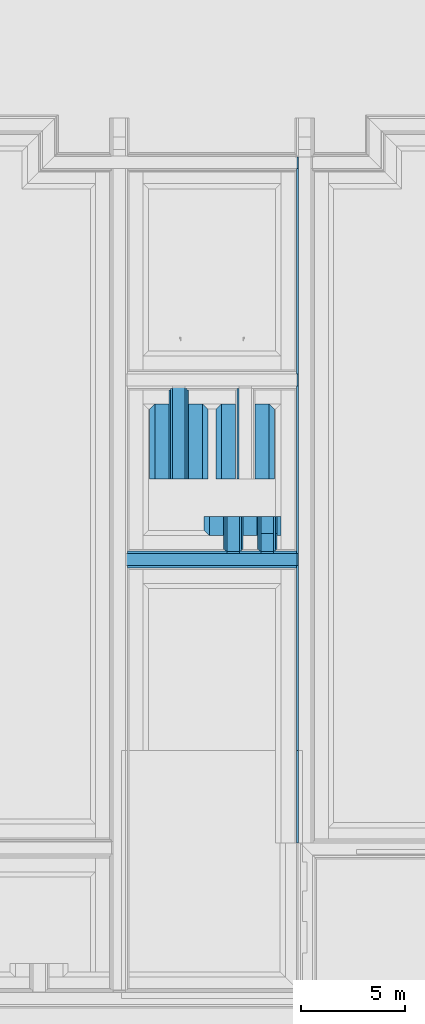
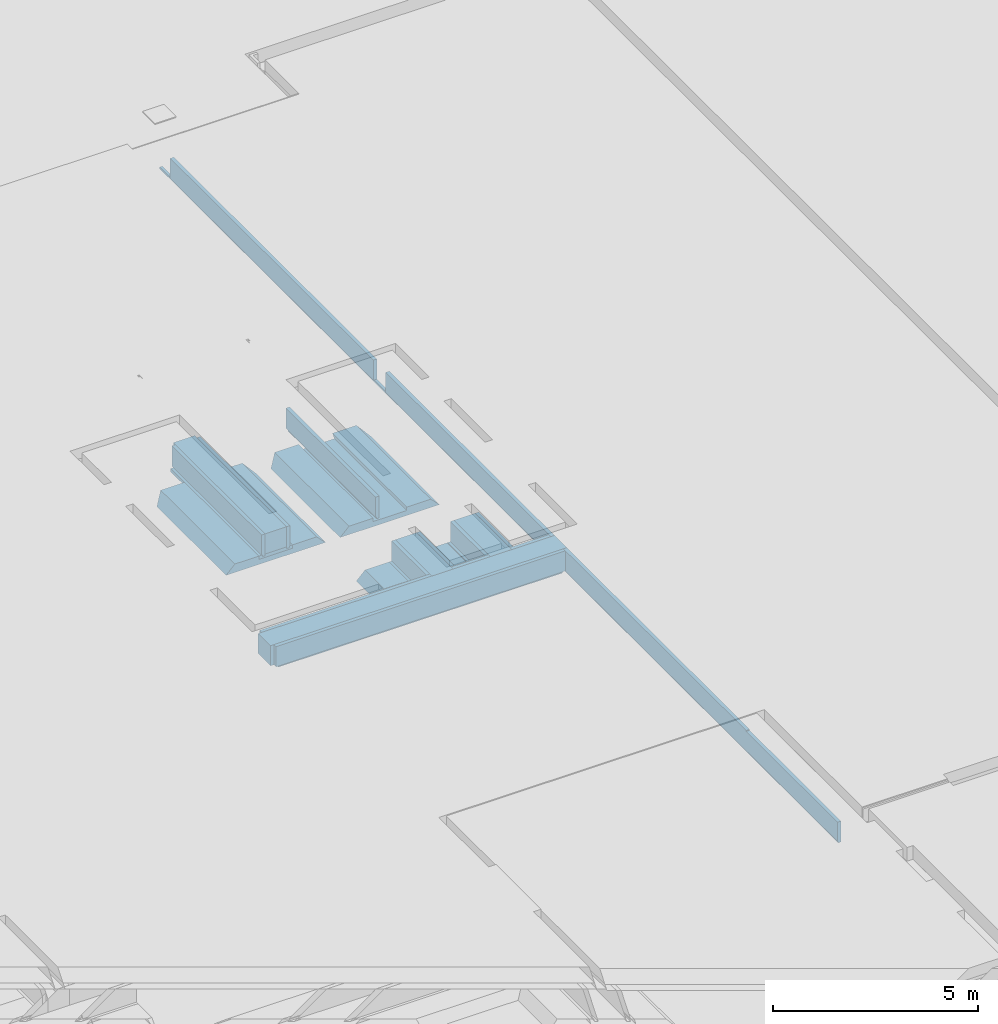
# One storey, part 10 of 15: 21 building element parts, 6 elements without a shape of their own.
"""IFC2X3 building model written with IfcOpenShell, lengths in millimetres."""

from ifc_helpers import new_model, entity, si_unit, converted_unit, derived_unit, money_unit, direction, frame, origin_with_axes, place, context, subcontext, project, spatial, faceted_brep, material, type_object, element, aggregate, save


model = new_model("IFC2X3")

# Units and contexts
model_context = context("Model", 3, precision=0.01, world=origin_with_axes(), true_north=direction((0.0, 1.0)))
plan_context = context("Plan", 3, precision=0.01, world=origin_with_axes(), true_north=direction((0.0, 1.0)))
body_context = subcontext(model_context, "Body", "Model", "MODEL_VIEW")
ifc_project = project(units=[si_unit("LENGTHUNIT", "METRE", prefix="MILLI"), si_unit("AREAUNIT", "SQUARE_METRE"), si_unit("VOLUMEUNIT", "CUBIC_METRE"), converted_unit("PLANEANGLEUNIT", "DEGREE", entity("IfcPlaneAngleMeasure", 0.0174532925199), si_unit("PLANEANGLEUNIT", "RADIAN"), dimensions=[0, 0, 0, 0, 0, 0, 0]), money_unit("EUR"), converted_unit("TIMEUNIT", "Year", entity("IfcTimeMeasure", 31556926.0), si_unit("TIMEUNIT", "SECOND"), dimensions=[0, 0, 1, 0, 0, 0, 0]), si_unit("MASSUNIT", "GRAM", prefix="KILO"), si_unit("THERMODYNAMICTEMPERATUREUNIT", "DEGREE_CELSIUS"), si_unit("LUMINOUSINTENSITYUNIT", "LUMEN"), si_unit("ENERGYUNIT", "JOULE", prefix="MEGA"), derived_unit("THERMALCONDUCTANCEUNIT", [(si_unit("POWERUNIT", "WATT"), 1), (si_unit("LENGTHUNIT", "METRE"), -1), (si_unit("THERMODYNAMICTEMPERATUREUNIT", "KELVIN"), -1)]), derived_unit("SPECIFICHEATCAPACITYUNIT", [(si_unit("ENERGYUNIT", "JOULE"), 1), (si_unit("MASSUNIT", "GRAM", prefix="KILO"), -1), (si_unit("THERMODYNAMICTEMPERATUREUNIT", "KELVIN"), -1)]), derived_unit("MASSDENSITYUNIT", [(si_unit("MASSUNIT", "GRAM", prefix="KILO"), 1), (si_unit("VOLUMEUNIT", "CUBIC_METRE"), -1)])], contexts=[model_context, plan_context])

# Site, building, storey
site_placement = place(None, origin_with_axes())
site = spatial("IfcSite", under=ifc_project, at=site_placement, Name="Site", CompositionType="ELEMENT")
building_placement = place(site_placement, origin_with_axes())
building = spatial("IfcBuilding", under=site, at=building_placement, Name="Naam gebouw", CompositionType="ELEMENT")
storey_placement = place(building_placement, frame((0.0, 0.0, -1050.0), z_axis=(0.0, 0.0, 1.0), x_axis=(1.0, 0.0, 0.0)))
storey = spatial("IfcBuildingStorey", under=building, at=storey_placement, Name="fundering", CompositionType="ELEMENT", Elevation=-1050.0)

# Beam, building element parts
beam_type = type_object("IfcBeamType", Name="Fundering balk IsoBouw Powerkist 2800 x 850", PredefinedType="BEAM")
beam_1_placement = place(storey_placement, frame((41680.0, 34700.0000358, -60.0000017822), z_axis=(0.0, 0.0, 1.0), x_axis=(-1.0, 0.0, 0.0)))
beam_1 = element("IfcBeam", 1, at=beam_1_placement, inside=storey, type_object=beam_type, Name="28_Balk-x", ObjectType="BEAM")
ifc_material_1 = material(Name="ALG - TERREIN")
building_element_part_1_placement = place(beam_1_placement, origin_with_axes())
building_element_part_1 = element("IfcBuildingElementPart", 2, at=building_element_part_1_placement, material=ifc_material_1, Name="ALG - TERREIN", context=body_context, shape_type="Brep", body=[
    faceted_brep([(1400.00037562, 1400.00037562, -249.999996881), (-1400.00037562, 1400.00037562, -249.999996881), (-1400.00037562, 4775.00010807, -249.999996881), (1400.00037562, 4775.00010807, -249.999996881), (-1150.00039795, 1150.00039795, -1.49733616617e-05), (1150.00039795, 1150.00039795, 2.28408447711e-06), (475.000395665, 1150.00039795, -2.78059908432e-06), (475.000395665, 1250.00038902, -100.00001028), (-475.000395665, 1250.00038902, -100.00001028), (-475.000395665, 1150.00039795, -9.90867810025e-06), (-1150.00039795, 4775.00010807, -1.92126834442e-05), (-475.000395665, 4775.00010807, -100.00001028), (475.000395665, 4775.00010807, -100.00001028), (475.000395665, 4775.00010807, 2.25106189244e-05), (1150.00039795, 4775.00010807, -1.92126834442e-05), (-475.000395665, 4775.00010807, 2.25106189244e-05)], [[[0, 1, 2, 3]], [[4, 1, 0, 5, 6, 7, 8, 9]], [[1, 4, 10, 2]], [[11, 12, 13, 14, 3, 2, 10, 15]], [[5, 0, 3, 14]], [[6, 5, 14, 13]], [[7, 6, 13, 12]], [[8, 7, 12, 11]], [[9, 8, 11, 15]], [[4, 9, 15, 10]]]),
])
ifc_material_2 = material(Name="Isolatie - EPS")
building_element_part_2_placement = place(beam_1_placement, origin_with_axes())
building_element_part_2 = element("IfcBuildingElementPart", 3, at=building_element_part_2_placement, material=ifc_material_2, Name="Isolatie - EPS", context=body_context, shape_type="Brep", body=[
    faceted_brep([(300.00036966, 475.000375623, -49.0824424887), (300.00036966, 475.000375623, 1.52455683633e-05), (300.00036966, 400.000373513, 1.52455683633e-05), (300.00036966, 400.000373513, 600.000004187), (300.00036966, 4775.00010807, 600.000004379), (300.00036966, 4775.00010807, -49.0824424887), (380.000369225, 475.000375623, 1.52455683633e-05), (380.000369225, 475.000375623, -49.0824424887), (400.000366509, 4775.00010807, 2.4249691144e-06), (400.000366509, 400.000373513, 1.52455683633e-05), (380.000369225, 4775.00010807, 2.4249691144e-06), (400.000366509, 400.000373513, 600.000004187), (400.000366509, 4775.00010807, 600.000004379), (380.000369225, 4775.00010807, -49.0824424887)], [[[0, 1, 2, 3, 4, 5]], [[6, 1, 0, 7]], [[8, 9, 2, 1, 6, 10]], [[9, 11, 3, 2]], [[4, 3, 11, 12]], [[13, 5, 4, 12, 8, 10]], [[13, 7, 0, 5]], [[10, 6, 7, 13]], [[12, 11, 9, 8]]]),
])
aggregate(beam_1, [building_element_part_1, building_element_part_2])

beam_2_placement = place(storey_placement, frame((38470.0, 34700.0000358, -60.0000017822), z_axis=(0.0, 0.0, 1.0), x_axis=(-1.0, 0.0, 0.0)))
beam_2 = element("IfcBeam", 4, at=beam_2_placement, inside=storey, type_object=beam_type, Name="28_Balk-x", ObjectType="BEAM")
building_element_part_3_placement = place(beam_2_placement, origin_with_axes())
building_element_part_3 = element("IfcBuildingElementPart", 5, at=building_element_part_3_placement, material=ifc_material_1, Name="ALG - TERREIN", context=body_context, shape_type="Brep", body=[
    faceted_brep([(1400.00037562, 1400.00037562, -249.999996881), (-1400.00037562, 1400.00037562, -249.999996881), (-1400.00037562, 4775.00010807, -249.999996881), (1400.00037562, 4775.00010807, -249.999996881), (-1150.00039795, 1150.00039795, -1.92126834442e-05), (1150.00039795, 1150.00039795, -1.92126834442e-05), (475.000395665, 1150.00039795, -1.92126834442e-05), (475.000395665, 1250.00038902, -100.00001028), (-475.000395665, 1250.00038902, -100.00001028), (-475.000395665, 1150.00039795, -1.92126834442e-05), (-1150.00039795, 4775.00010807, -1.92126832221e-05), (-475.000395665, 4775.00010807, 2.25106189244e-05), (-475.000395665, 4775.00010807, -100.00001028), (475.000395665, 4775.00010807, -100.00001028), (475.000395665, 4775.00010807, 2.25106187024e-05), (1150.00039795, 4775.00010807, -1.92126836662e-05)], [[[0, 1, 2, 3]], [[4, 1, 0, 5, 6, 7, 8, 9]], [[1, 4, 10, 2]], [[3, 2, 10, 11, 12, 13, 14, 15]], [[5, 0, 3, 15]], [[6, 5, 15, 14]], [[7, 6, 14, 13]], [[8, 7, 13, 12]], [[9, 8, 12, 11]], [[4, 9, 11, 10]]]),
])
building_element_part_4_placement = place(beam_2_placement, origin_with_axes())
building_element_part_4 = element("IfcBuildingElementPart", 6, at=building_element_part_4_placement, material=ifc_material_2, Name="Isolatie - EPS", context=body_context, shape_type="Brep", body=[
    faceted_brep([(-475.000375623, 475.000375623, -99.9999968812), (-475.000375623, 475.000375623, 1.52455683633e-05), (-475.000375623, 4775.00010807, 8.43651926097e-06), (-475.000375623, 4775.00010807, -99.9999968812), (-400.000361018, 475.000375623, 1.52455683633e-05), (475.000375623, 475.000375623, -99.9999968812), (475.000375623, 475.000375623, 1.52455683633e-05), (400.000361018, 475.000375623, 1.52455683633e-05), (380.000371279, 475.000375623, 1.52455683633e-05), (380.000371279, 475.000375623, -49.0824435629), (300.000369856, 475.000375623, -49.0824435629), (300.000369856, 475.000375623, 1.52455683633e-05), (-300.000369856, 475.000375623, 1.52455683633e-05), (-300.000369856, 475.000375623, -49.0824435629), (-380.000371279, 475.000375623, -49.0824435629), (-380.000371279, 475.000375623, 1.52455683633e-05), (-400.000361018, 4775.00010807, 8.43651926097e-06), (-380.000371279, 4775.00010807, 8.43651926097e-06), (-380.000371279, 4775.00010807, -49.0824435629), (-300.000369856, 4775.00010807, -49.0824435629), (-300.000369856, 4775.00010807, 8.43651926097e-06), (300.000369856, 4775.00010807, 8.43651903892e-06), (300.000369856, 4775.00010807, -49.0824435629), (380.000371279, 4775.00010807, -49.0824435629), (380.000371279, 4775.00010807, 8.43651903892e-06), (400.000361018, 4775.00010807, 8.43651903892e-06), (475.000375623, 4775.00010807, 8.43651903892e-06), (475.000375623, 4775.00010807, -99.9999968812)], [[[0, 1, 2, 3]], [[4, 1, 0, 5, 6, 7, 8, 9, 10, 11, 12, 13, 14, 15]], [[1, 4, 16, 2]], [[3, 2, 16, 17, 18, 19, 20, 21, 22, 23, 24, 25, 26, 27]], [[5, 0, 3, 27]], [[6, 5, 27, 26]], [[7, 6, 26, 25]], [[8, 7, 25, 24]], [[9, 8, 24, 23]], [[10, 9, 23, 22]], [[11, 10, 22, 21]], [[12, 11, 21, 20]], [[13, 12, 20, 19]], [[14, 13, 19, 18]], [[15, 14, 18, 17]], [[4, 15, 17, 16]]]),
])
building_element_part_5_placement = place(beam_2_placement, origin_with_axes())
building_element_part_5 = element("IfcBuildingElementPart", 7, at=building_element_part_5_placement, material=ifc_material_2, Name="Isolatie - EPS", context=body_context, shape_type="Brep", body=[
    faceted_brep([(300.00036966, 475.000375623, -49.0824424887), (300.00036966, 475.000375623, 1.52455683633e-05), (300.00036966, 400.000373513, 1.52455683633e-05), (300.00036966, 400.000373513, 600.000004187), (300.00036966, 4775.00010807, 600.000004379), (300.00036966, 4775.00010807, -49.0824424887), (380.000369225, 475.000375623, 1.52455683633e-05), (380.000369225, 475.000375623, -49.0824424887), (400.000366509, 4775.00010807, 2.4249691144e-06), (400.000366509, 400.000373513, 1.52455683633e-05), (380.000369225, 4775.00010807, 2.4249691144e-06), (400.000366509, 400.000373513, 600.000004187), (400.000366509, 4775.00010807, 600.000004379), (380.000369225, 4775.00010807, -49.0824424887)], [[[0, 1, 2, 3, 4, 5]], [[6, 1, 0, 7]], [[8, 9, 2, 1, 6, 10]], [[9, 11, 3, 2]], [[4, 3, 11, 12]], [[13, 5, 4, 12, 8, 10]], [[13, 7, 0, 5]], [[10, 6, 7, 13]], [[12, 11, 9, 8]]]),
])
building_element_part_6_placement = place(beam_2_placement, origin_with_axes())
building_element_part_6 = element("IfcBuildingElementPart", 8, at=building_element_part_6_placement, material=ifc_material_2, Name="Isolatie - EPS", context=body_context, shape_type="Brep", body=[
    faceted_brep([(-400.000366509, 4775.00010807, 2.42496933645e-06), (-400.000366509, 400.000373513, 1.52455683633e-05), (-400.000366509, 400.000373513, 600.000004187), (-400.000366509, 4775.00010807, 600.000004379), (-300.00036966, 475.000375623, 1.52455683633e-05), (-300.00036966, 400.000373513, 1.52455683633e-05), (-380.000369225, 4775.00010807, 2.42496933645e-06), (-380.000369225, 475.000375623, 1.52455683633e-05), (-300.00036966, 400.000373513, 600.000004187), (-300.00036966, 4775.00010807, 600.000004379), (-300.00036966, 4775.00010807, -49.0824424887), (-380.000369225, 4775.00010807, -49.0824424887), (-300.00036966, 475.000375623, -49.0824424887), (-380.000369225, 475.000375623, -49.0824424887)], [[[0, 1, 2, 3]], [[4, 5, 1, 0, 6, 7]], [[5, 8, 2, 1]], [[3, 2, 8, 9]], [[10, 11, 6, 0, 3, 9]], [[5, 4, 12, 10, 9, 8]], [[11, 13, 7, 6]], [[4, 7, 13, 12]], [[10, 12, 13, 11]]]),
])
ifc_material_3 = material(Name="Beton gewapend C")
building_element_part_7_placement = place(beam_2_placement, origin_with_axes())
building_element_part_7 = element("IfcBuildingElementPart", 9, at=building_element_part_7_placement, material=ifc_material_3, Name="Beton gewapend C", context=body_context, shape_type="Brep", body=[
    faceted_brep([(-300.000372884, 4775.00010807, 0.0), (-300.000372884, 300.000372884, 0.0), (-300.000372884, 300.000372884, 600.0), (-300.000372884, 4775.00010807, 600.0), (300.000372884, 4775.00010807, 0.0), (300.000372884, 300.000372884, 0.0), (300.000372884, 300.000372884, 600.0), (300.000372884, 4775.00010807, 600.0)], [[[0, 1, 2, 3]], [[4, 5, 1, 0]], [[5, 6, 2, 1]], [[3, 2, 6, 7]], [[3, 7, 4, 0]], [[7, 6, 5, 4]]]),
])
aggregate(beam_2, [building_element_part_3, building_element_part_4, building_element_part_5, building_element_part_6, building_element_part_7])

beam_3_placement = place(storey_placement, frame((35604.9999775, 26040.0, -60.0000017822), z_axis=(0.0, 0.0, 1.0), x_axis=(0.0, -1.0, 0.0)))
beam_3 = element("IfcBeam", 10, at=beam_3_placement, inside=storey, type_object=beam_type, Name="28_Balk-x", ObjectType="BEAM")
building_element_part_8_placement = place(beam_3_placement, origin_with_axes())
building_element_part_8 = element("IfcBuildingElementPart", 11, at=building_element_part_8_placement, material=ifc_material_2, Name="Isolatie - EPS", context=body_context, shape_type="Brep", body=[
    faceted_brep([(-400.000366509, 8539.99964899, 1.52455683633e-05), (-400.000366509, 7437.00064398, 0.0), (-400.000366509, 7437.00064398, 600.0), (-400.000366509, 8539.99964899, 600.000004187), (-380.000369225, 8464.99964688, 1.52455683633e-05), (-380.000369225, 7437.00064398, 0.0), (-300.00036966, 8539.99964899, 1.52455683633e-05), (-300.00036966, 8464.99964688, 1.52455683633e-05), (-300.000372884, 7437.00064398, 0.0), (-300.000372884, 7437.00064398, 600.0), (-300.00036966, 8539.99964899, 600.000004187), (-380.000369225, 5788.00064398, 0.0), (-380.000369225, 6836.99940102, 0.0), (-380.000369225, 8464.99964688, -49.0824424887), (-380.000369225, 475.000398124, -49.0824424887), (-380.000369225, 475.000398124, 1.52455683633e-05), (-380.000369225, 5187.99940102, 0.0), (-300.000372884, 6836.99940102, 0.0), (-300.000372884, 6836.99940102, 600.0), (-300.000372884, 5788.00064398, 600.0), (-300.000372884, 5788.00064398, 0.0), (-300.000372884, 5187.99940102, 0.0), (-300.000372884, 5187.99940102, 600.0), (-300.00036966, 400.000396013, 600.000004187), (-300.00036966, 400.000396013, 1.52455683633e-05), (-300.00036966, 475.000398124, 1.52455683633e-05), (-300.00036966, 475.000398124, -49.0824424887), (-300.00036966, 8464.99964688, -49.0824424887), (-400.000366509, 5788.00064398, 0.0), (-400.000366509, 6836.99940102, 0.0), (-400.000366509, 400.000396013, 1.52455683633e-05), (-400.000366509, 5187.99940102, 0.0), (-400.000366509, 6836.99940102, 600.0), (-400.000366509, 5788.00064398, 600.0), (-400.000366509, 5187.99940102, 600.0), (-400.000366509, 400.000396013, 600.000004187)], [[[0, 1, 2, 3]], [[4, 5, 1, 0, 6, 7]], [[8, 9, 2, 1, 5]], [[3, 2, 9, 10]], [[0, 3, 10, 6]], [[11, 12, 5, 4, 13, 14, 15, 16]], [[8, 17, 18, 19, 20, 21, 22, 23, 24, 25, 26, 27, 7, 6, 10, 9]], [[13, 4, 7, 27]], [[8, 5, 12, 17]], [[28, 29, 12, 11]], [[14, 13, 27, 26]], [[14, 26, 25, 15]], [[24, 30, 31, 16, 15, 25]], [[21, 20, 11, 16]], [[12, 29, 32, 18, 17]], [[19, 18, 32, 33]], [[11, 20, 19, 33, 28]], [[21, 16, 31, 34, 22]], [[35, 23, 22, 34]], [[35, 30, 24, 23]], [[33, 32, 29, 28]], [[30, 35, 34, 31]]]),
])
building_element_part_9_placement = place(beam_3_placement, origin_with_axes())
building_element_part_9 = element("IfcBuildingElementPart", 12, at=building_element_part_9_placement, material=ifc_material_2, Name="Isolatie - EPS", context=body_context, shape_type="Brep", body=[
    faceted_brep([(300.00036966, 475.000398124, 1.52455683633e-05), (300.00036966, 400.000396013, 1.52455683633e-05), (300.00036966, 400.000396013, 600.000004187), (300.00036966, 8539.99964899, 600.000004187), (300.00036966, 8539.99964899, 1.52455683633e-05), (300.00036966, 8464.99964688, 1.52455683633e-05), (300.00036966, 8464.99964688, -49.0824424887), (300.00036966, 475.000398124, -49.0824424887), (400.000366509, 8539.99964899, 1.52455683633e-05), (400.000366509, 400.000396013, 1.52455683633e-05), (380.000369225, 475.000398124, 1.52455683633e-05), (380.000369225, 8464.99964688, 1.52455683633e-05), (400.000366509, 400.000396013, 600.000004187), (400.000366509, 8539.99964899, 600.000004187), (380.000369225, 8464.99964688, -49.0824424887), (380.000369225, 475.000398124, -49.0824424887)], [[[0, 1, 2, 3, 4, 5, 6, 7]], [[8, 9, 1, 0, 10, 11, 5, 4]], [[9, 12, 2, 1]], [[3, 2, 12, 13]], [[13, 8, 4, 3]], [[11, 14, 6, 5]], [[14, 15, 7, 6]], [[10, 0, 7, 15]], [[13, 12, 9, 8]], [[11, 10, 15, 14]]]),
])
building_element_part_10_placement = place(beam_3_placement, origin_with_axes())
building_element_part_10 = element("IfcBuildingElementPart", 13, at=building_element_part_10_placement, material=ifc_material_3, Name="Beton gewapend C", context=body_context, shape_type="Brep", body=[
    faceted_brep([(-300.000372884, 8639.99964962, 0.0), (-300.000372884, 300.000395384, 0.0), (-300.000372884, 300.000395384, 600.0), (-300.000372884, 8639.99964962, 600.0), (300.000372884, 8639.99964962, 0.0), (300.000372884, 300.000395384, 0.0), (300.000372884, 300.000395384, 600.0), (300.000372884, 8639.99964962, 600.0)], [[[0, 1, 2, 3]], [[4, 5, 1, 0]], [[5, 6, 2, 1]], [[3, 2, 6, 7]], [[7, 4, 0, 3]], [[7, 6, 5, 4]]]),
])
aggregate(beam_3, [building_element_part_8, building_element_part_9, building_element_part_10])

beam_4_placement = place(storey_placement, frame((42742.0, 28125.0, -60.0000017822), z_axis=(0.0, 0.0, 1.0), x_axis=(-1.0, 0.0, 0.0)))
beam_4 = element("IfcBeam", 14, at=beam_4_placement, inside=storey, type_object=beam_type, Name="28_Balk-x", ObjectType="BEAM")
building_element_part_11_placement = place(beam_4_placement, origin_with_axes())
building_element_part_11 = element("IfcBuildingElementPart", 15, at=building_element_part_11_placement, material=ifc_material_1, Name="ALG - TERREIN", context=body_context, shape_type="Brep", body=[
    faceted_brep([(475.000605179, 934.999602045, 7.42004169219e-06), (475.000605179, 911.000830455, -23.9987692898), (475.000605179, 1.31450406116e-10, -23.9987674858), (475.000605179, 0.0, -1.65443776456e-05), (498.99935612, 934.999602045, 7.52896478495e-06), (498.99935612, 1.38555833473e-10, -1.65443778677e-05)], [[[0, 1, 2, 3]], [[4, 1, 0]], [[1, 4, 5, 2]], [[3, 2, 5]], [[4, 0, 3, 5]]]),
    faceted_brep([(-475.000605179, 934.999602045, 3.10827918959e-06), (-652.999602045, 934.999602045, 2.30039653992e-06), (-652.999602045, 0.0, -1.92126834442e-05), (-475.000605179, 0.0, -1.65443776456e-05), (-402.999624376, 684.999624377, -249.999996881), (-475.000605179, 834.999616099, -99.9999836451), (398.999392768, 834.999618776, -99.999980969), (248.999375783, 684.999624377, -249.999996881), (-402.999624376, 0.0, -249.999996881), (248.999375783, 0.0, -249.999996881), (398.99939259, 1.10134124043e-10, -99.9999800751), (-475.000605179, 0.0, -99.9999836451)], [[[0, 1, 2, 3]], [[4, 1, 0, 5, 6, 7]], [[1, 4, 8, 2]], [[8, 9, 10, 11, 3, 2]], [[5, 0, 3, 11]], [[6, 5, 11, 10]], [[7, 6, 10, 9]], [[4, 7, 9, 8]]]),
])
building_element_part_12_placement = place(beam_4_placement, origin_with_axes())
building_element_part_12 = element("IfcBuildingElementPart", 16, at=building_element_part_12_placement, material=ifc_material_2, Name="Isolatie - EPS", context=body_context, shape_type="Brep", body=[
    faceted_brep([(-400.000612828, 1609.99962438, 1.52455683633e-05), (-475.000624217, 1609.99962438, 1.52455683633e-05), (-475.000624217, 0.0, 4.14733647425e-06), (-400.000612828, 0.0, 4.14733647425e-06), (-475.000624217, 1609.99962438, -99.9999968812), (-380.000626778, 1609.99962438, 1.52455683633e-05), (-380.000626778, 1609.99962438, -49.0824452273), (-300.000625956, 1609.99962438, -49.0824452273), (-300.000625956, 1609.99962438, 1.52455683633e-05), (300.000625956, 1609.99962438, 1.52455683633e-05), (300.000625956, 1609.99962438, -49.0824452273), (380.000626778, 1609.99962438, -49.0824452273), (380.000626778, 1609.99962438, 1.52455683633e-05), (400.000612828, 1609.99962438, 1.52455683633e-05), (475.000624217, 1609.99962438, 1.52455683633e-05), (475.000624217, 1609.99962438, -99.9999968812), (-475.000624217, 0.0, -99.9999968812), (475.000624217, 0.0, 4.14733647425e-06), (400.000612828, 0.0, 4.14733647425e-06), (380.000626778, 0.0, 4.14733647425e-06), (380.000626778, 0.0, -49.0824452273), (300.000625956, 0.0, -49.0824452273), (300.000625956, 0.0, -1.00087986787e-05), (-300.000625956, 0.0, -1.00087986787e-05), (-300.000625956, 0.0, -49.0824452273), (-380.000626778, 0.0, -49.0824452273), (-380.000626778, 0.0, 4.14733647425e-06), (475.000624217, 0.0, -99.9999968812)], [[[0, 1, 2, 3]], [[4, 1, 0, 5, 6, 7, 8, 9, 10, 11, 12, 13, 14, 15]], [[1, 4, 16, 2]], [[17, 18, 19, 20, 21, 22, 23, 24, 25, 26, 3, 2, 16, 27]], [[5, 0, 3, 26]], [[6, 5, 26, 25]], [[7, 6, 25, 24]], [[8, 7, 24, 23]], [[9, 8, 23, 22]], [[10, 9, 22, 21]], [[11, 10, 21, 20]], [[12, 11, 20, 19]], [[13, 12, 19, 18]], [[14, 13, 18, 17]], [[15, 14, 17, 27]], [[4, 15, 27, 16]]]),
])
building_element_part_13_placement = place(beam_4_placement, origin_with_axes())
building_element_part_13 = element("IfcBuildingElementPart", 17, at=building_element_part_13_placement, material=ifc_material_2, Name="Isolatie - EPS", context=body_context, shape_type="Brep", body=[
    faceted_brep([(-300.000620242, 0.0, 599.999996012), (-300.000620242, 1684.99962929, 600.000002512), (-400.000615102, 1684.99962903, 600.000002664), (-400.000615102, 0.0, 599.999996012), (-300.000620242, 1609.99962438, 1.52455683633e-05), (-300.000620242, 1684.99963349, 9.13515663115e-06), (-300.000620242, 0.0, -49.0824424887), (-300.000620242, 1609.99962438, -49.0824424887), (-400.000615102, 1684.99963349, 9.68913815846e-06), (-400.000615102, 0.0, 5.99400551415e-06), (-380.000624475, 0.0, 5.99400551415e-06), (-380.000624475, 0.0, -49.0824424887), (-380.000624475, 1609.99962438, 1.52455683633e-05), (-380.000624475, 1609.99962438, -49.0824424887)], [[[0, 1, 2, 3]], [[4, 5, 1, 0, 6, 7]], [[5, 8, 2, 1]], [[3, 2, 8, 9]], [[6, 0, 3, 9, 10, 11]], [[9, 8, 5, 4, 12, 10]], [[11, 13, 7, 6]], [[7, 13, 12, 4]], [[10, 12, 13, 11]]]),
])
building_element_part_14_placement = place(beam_4_placement, origin_with_axes())
building_element_part_14 = element("IfcBuildingElementPart", 18, at=building_element_part_14_placement, material=ifc_material_2, Name="Isolatie - EPS", context=body_context, shape_type="Brep", body=[
    faceted_brep([(300.000620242, 0.0, 599.999996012), (300.000620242, 1684.99963082, 600.000001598), (300.000620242, 1684.99963349, 5.81126013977e-06), (300.000620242, 1609.99962438, 1.52455683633e-05), (300.000620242, 1609.99962438, -49.0824424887), (300.000620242, 0.0, -49.0824424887), (400.000615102, 0.0, 599.999996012), (400.000615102, 1684.99963107, 600.000001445), (400.000615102, 1684.99963349, 5.25727861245e-06), (400.000615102, 0.0, 5.99400551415e-06), (380.000624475, 0.0, 5.99400551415e-06), (380.000624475, 1609.99962438, 1.52455683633e-05), (380.000624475, 1609.99962438, -49.0824424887), (380.000624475, 0.0, -49.0824424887)], [[[0, 1, 2, 3, 4, 5]], [[6, 7, 1, 0]], [[8, 2, 1, 7]], [[3, 2, 8, 9, 10, 11]], [[12, 4, 3, 11]], [[5, 4, 12, 13]], [[13, 10, 9, 6, 0, 5]], [[9, 8, 7, 6]], [[13, 12, 11, 10]]]),
])
building_element_part_15_placement = place(beam_4_placement, origin_with_axes())
building_element_part_15 = element("IfcBuildingElementPart", 19, at=building_element_part_15_placement, material=ifc_material_3, Name="Beton gewapend C", context=body_context, shape_type="Brep", body=[
    faceted_brep([(300.000621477, 0.0, 600.0), (300.000621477, 1784.99962712, 600.0), (-300.000621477, 1784.99962712, 600.0), (-300.000621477, 0.0, 600.0), (300.000621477, 0.0, 0.0), (300.000621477, 1784.99962712, 0.0), (-300.000621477, 1784.99962712, 0.0), (-300.000621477, 0.0, 0.0)], [[[0, 1, 2, 3]], [[4, 5, 1, 0]], [[5, 6, 2, 1]], [[3, 2, 6, 7]], [[3, 7, 4, 0]], [[7, 6, 5, 4]]]),
])
aggregate(beam_4, [building_element_part_11, building_element_part_12, building_element_part_13, building_element_part_14, building_element_part_15])

beam_5_placement = place(storey_placement, frame((41093.0, 28125.0, -60.0000017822), z_axis=(0.0, 0.0, 1.0), x_axis=(-1.0, 0.0, 0.0)))
beam_5 = element("IfcBeam", 20, at=beam_5_placement, inside=storey, type_object=beam_type, Name="28_Balk-x", ObjectType="BEAM")
building_element_part_16_placement = place(beam_5_placement, origin_with_axes())
building_element_part_16 = element("IfcBuildingElementPart", 21, at=building_element_part_16_placement, material=ifc_material_1, Name="ALG - TERREIN", context=body_context, shape_type="Brep", body=[
    faceted_brep([(-1250.00062314, 834.999624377, -99.9999968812), (-1400.00062422, 684.999624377, -249.999996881), (-1400.00062422, 0.0, -249.999996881), (-1250.00062422, -1.10134124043e-10, -99.9999968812), (1400.00062422, 684.999624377, -249.999996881), (-1173.99937578, 834.999624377, -99.9999968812), (-1173.99937578, 911.000871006, -23.9987502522), (-1150.00064388, 934.999602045, 3.13640469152e-06), (-475.000605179, 934.999602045, 3.62625374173e-06), (-475.000605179, 834.999637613, -99.9999836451), (475.000605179, 834.999637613, -99.9999836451), (475.000605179, 934.999602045, 4.31567181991e-06), (1150.00064388, 934.999602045, 4.80552087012e-06), (1400.00062422, 0.0, -249.999996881), (-1150.00064388, 0.0, -1.65443778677e-05), (-1173.99937578, -1.31450406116e-10, -23.9987484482), (-1173.99937578, -1.31450406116e-10, -99.9999968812), (1150.00064388, 0.0, -1.65443776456e-05), (475.000605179, 0.0, -1.65443776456e-05), (475.000605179, 0.0, -99.9999836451), (-475.000605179, 0.0, -99.9999836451), (-475.000605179, 0.0, -1.65443776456e-05)], [[[0, 1, 2, 3]], [[4, 1, 0, 5, 6, 7, 8, 9, 10, 11, 12]], [[1, 4, 13, 2]], [[14, 15, 16, 3, 2, 13, 17, 18, 19, 20, 21]], [[5, 0, 3, 16]], [[6, 5, 16, 15]], [[7, 6, 15, 14]], [[8, 7, 14, 21]], [[9, 8, 21, 20]], [[10, 9, 20, 19]], [[11, 10, 19, 18]], [[12, 11, 18, 17]], [[4, 12, 17, 13]]]),
])
building_element_part_17_placement = place(beam_5_placement, origin_with_axes())
building_element_part_17 = element("IfcBuildingElementPart", 22, at=building_element_part_17_placement, material=ifc_material_2, Name="Isolatie - EPS", context=body_context, shape_type="Brep", body=[
    faceted_brep([(-400.000612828, 1609.99962438, 1.52455683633e-05), (-475.000624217, 1609.99962438, 1.52455683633e-05), (-475.000624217, 0.0, 4.14733647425e-06), (-400.000612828, 0.0, 4.14733647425e-06), (-475.000624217, 1609.99962438, -99.9999968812), (-380.000626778, 1609.99962438, 1.52455683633e-05), (-380.000626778, 1609.99962438, -49.0824452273), (-300.000625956, 1609.99962438, -49.0824452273), (-300.000625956, 1609.99962438, 1.52455683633e-05), (300.000625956, 1609.99962438, 1.52455683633e-05), (300.000625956, 1609.99962438, -49.0824452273), (380.000626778, 1609.99962438, -49.0824452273), (380.000626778, 1609.99962438, 1.52455683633e-05), (400.000612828, 1609.99962438, 1.52455683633e-05), (475.000624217, 1609.99962438, 1.52455683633e-05), (475.000624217, 1609.99962438, -99.9999968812), (-475.000624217, 0.0, -99.9999968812), (475.000624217, 0.0, 4.14733647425e-06), (400.000612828, 0.0, 4.14733647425e-06), (380.000626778, 0.0, 4.14733647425e-06), (380.000626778, 0.0, -49.0824452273), (300.000625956, 0.0, -49.0824452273), (300.000625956, 0.0, -1.00087986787e-05), (-300.000625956, 0.0, -1.00087986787e-05), (-300.000625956, 0.0, -49.0824452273), (-380.000626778, 0.0, -49.0824452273), (-380.000626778, 0.0, 4.14733647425e-06), (475.000624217, 0.0, -99.9999968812)], [[[0, 1, 2, 3]], [[4, 1, 0, 5, 6, 7, 8, 9, 10, 11, 12, 13, 14, 15]], [[1, 4, 16, 2]], [[17, 18, 19, 20, 21, 22, 23, 24, 25, 26, 3, 2, 16, 27]], [[5, 0, 3, 26]], [[6, 5, 26, 25]], [[7, 6, 25, 24]], [[8, 7, 24, 23]], [[9, 8, 23, 22]], [[10, 9, 22, 21]], [[11, 10, 21, 20]], [[12, 11, 20, 19]], [[13, 12, 19, 18]], [[14, 13, 18, 17]], [[15, 14, 17, 27]], [[4, 15, 27, 16]]]),
])
building_element_part_18_placement = place(beam_5_placement, origin_with_axes())
building_element_part_18 = element("IfcBuildingElementPart", 23, at=building_element_part_18_placement, material=ifc_material_2, Name="Isolatie - EPS", context=body_context, shape_type="Brep", body=[
    faceted_brep([(-300.000620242, 0.0, 599.999996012), (-300.000620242, 1684.99962649, 600.000004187), (-400.000615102, 1684.99962649, 600.000004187), (-400.000615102, 0.0, 599.999996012), (-300.000620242, 1609.99962438, 1.52455683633e-05), (-300.000620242, 1684.99962649, 1.52455683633e-05), (-300.000620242, 0.0, -49.0824424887), (-300.000620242, 1609.99962438, -49.0824424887), (-400.000615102, 1684.99962649, 1.52455683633e-05), (-400.000615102, 0.0, 5.99400551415e-06), (-380.000624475, 0.0, 5.99400551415e-06), (-380.000624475, 0.0, -49.0824424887), (-380.000624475, 1609.99962438, 1.52455683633e-05), (-380.000624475, 1609.99962438, -49.0824424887)], [[[0, 1, 2, 3]], [[4, 5, 1, 0, 6, 7]], [[5, 8, 2, 1]], [[3, 2, 8, 9]], [[6, 0, 3, 9, 10, 11]], [[9, 8, 5, 4, 12, 10]], [[11, 13, 7, 6]], [[7, 13, 12, 4]], [[10, 12, 13, 11]]]),
])
building_element_part_19_placement = place(beam_5_placement, origin_with_axes())
building_element_part_19 = element("IfcBuildingElementPart", 24, at=building_element_part_19_placement, material=ifc_material_2, Name="Isolatie - EPS", context=body_context, shape_type="Brep", body=[
    faceted_brep([(300.000620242, 0.0, 599.999996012), (300.000620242, 1684.99962649, 600.000004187), (300.000620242, 1684.99962649, 1.52455683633e-05), (300.000620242, 1609.99962438, 1.52455683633e-05), (300.000620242, 1609.99962438, -49.0824424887), (300.000620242, 0.0, -49.0824424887), (400.000615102, 0.0, 599.999996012), (400.000615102, 1684.99962649, 600.000004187), (400.000615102, 1684.99962649, 1.52455683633e-05), (400.000615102, 0.0, 5.99400551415e-06), (380.000624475, 0.0, 5.99400551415e-06), (380.000624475, 1609.99962438, 1.52455683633e-05), (380.000624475, 1609.99962438, -49.0824424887), (380.000624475, 0.0, -49.0824424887)], [[[0, 1, 2, 3, 4, 5]], [[6, 7, 1, 0]], [[8, 2, 1, 7]], [[3, 2, 8, 9, 10, 11]], [[12, 4, 3, 11]], [[5, 4, 12, 13]], [[13, 10, 9, 6, 0, 5]], [[9, 8, 7, 6]], [[13, 12, 11, 10]]]),
])
building_element_part_20_placement = place(beam_5_placement, origin_with_axes())
building_element_part_20 = element("IfcBuildingElementPart", 25, at=building_element_part_20_placement, material=ifc_material_3, Name="Beton gewapend C", context=body_context, shape_type="Brep", body=[
    faceted_brep([(300.000621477, 0.0, 600.0), (300.000621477, 1784.99962712, 600.0), (-300.000621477, 1784.99962712, 600.0), (-300.000621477, 0.0, 600.0), (300.000621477, 0.0, 0.0), (300.000621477, 1784.99962712, 0.0), (-300.000621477, 1784.99962712, 0.0), (-300.000621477, 0.0, 0.0)], [[[0, 1, 2, 3]], [[4, 5, 1, 0]], [[5, 6, 2, 1]], [[3, 2, 6, 7]], [[3, 7, 4, 0]], [[7, 6, 5, 4]]]),
])
aggregate(beam_5, [building_element_part_16, building_element_part_17, building_element_part_18, building_element_part_19, building_element_part_20])

# Beam, building element part
beam_6_placement = place(storey_placement, frame((44545.0, 45453.0, -60.0000017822), z_axis=(0.0, 0.0, 1.0), x_axis=(-1.0, 0.0, 0.0)))
beam_6 = element("IfcBeam", 26, at=beam_6_placement, inside=storey, type_object=beam_type, Name="28_Balk-x", ObjectType="BEAM")
building_element_part_21_placement = place(beam_6_placement, origin_with_axes())
building_element_part_21 = element("IfcBuildingElementPart", 27, at=building_element_part_21_placement, material=ifc_material_2, Name="Isolatie - EPS", context=body_context, shape_type="Brep", body=[
    faceted_brep([(400.000366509, 28628.0, 600.000003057), (300.000370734, 28628.0, 600.00000292), (300.000372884, 19713.0003729, 600.0), (400.000366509, 19713.0003729, 600.000000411), (300.000372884, 28628.0, 570.000001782), (400.000366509, 28628.0, 570.000001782), (300.00036966, 33082.9999125, 570.000001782), (300.00036966, 33082.9999125, -49.0824424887), (300.00036966, 0.0, -49.0824424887), (300.00036966, 0.0, 1.4851386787e-07), (300.000372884, 550.0, 1.78216552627e-06), (300.00036983, 550.0, 600.000001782), (300.000372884, 10452.9995913, 600.0), (300.000372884, 10452.9995913, 0.0), (300.000372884, 11053.0003371, 0.0), (300.000372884, 11053.0003371, 600.0), (300.000372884, 19112.9996271, 600.0), (300.000372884, 19112.9996271, 0.0), (300.000372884, 19713.0003729, 0.0), (380.000369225, 19713.0003729, -2.09596340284e-07), (400.000366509, 19713.0003729, -2.61995536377e-07), (400.000366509, 33082.9999125, 2.4249691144e-06), (400.000366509, 33082.9999125, 570.000001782), (380.000369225, 33082.9999125, 2.4249691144e-06), (380.000369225, 33082.9999125, -49.0824424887), (380.000369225, 0.0, -49.0824424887), (380.000369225, 0.0, 1.4851386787e-07), (380.000369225, 550.0, 1.78216552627e-06), (400.000366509, 550.0, 1.78216552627e-06), (400.000366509, 550.0, 600.000001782), (400.000366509, 10452.9995913, 600.000000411), (400.000366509, 10452.9995913, -2.61995536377e-07), (380.000369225, 10452.9995913, -2.09596340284e-07), (380.000369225, 11053.0003371, -2.09596340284e-07), (400.000366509, 11053.0003371, -2.61995536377e-07), (400.000366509, 11053.0003371, 600.000000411), (400.000366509, 19112.9996271, 600.000000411), (400.000366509, 19112.9996271, -2.61995536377e-07), (380.000369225, 19112.9996271, -2.09596340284e-07)], [[[0, 1, 2, 3]], [[4, 1, 0, 5]], [[4, 6, 7, 8, 9, 10, 11, 12, 13, 14, 15, 16, 17, 18, 2, 1]], [[19, 20, 3, 2, 18]], [[5, 0, 3, 20, 21, 22]], [[6, 4, 5, 22]], [[6, 22, 21, 23, 24, 7]], [[7, 24, 25, 8]], [[25, 26, 9, 8]], [[27, 10, 9, 26]], [[28, 29, 11, 10, 27]], [[12, 11, 29, 30]], [[30, 31, 32, 13, 12]], [[13, 32, 33, 14]], [[14, 33, 34, 35, 15]], [[15, 35, 36, 16]], [[37, 38, 17, 16, 36]], [[38, 19, 18, 17]], [[23, 21, 20, 19]], [[32, 27, 26, 25, 24, 23, 19, 38, 33]], [[30, 29, 28, 31]], [[31, 28, 27, 32]], [[34, 33, 38, 37]], [[35, 34, 37, 36]]]),
])
aggregate(beam_6, [building_element_part_21])

save(model, "model.ifc")
